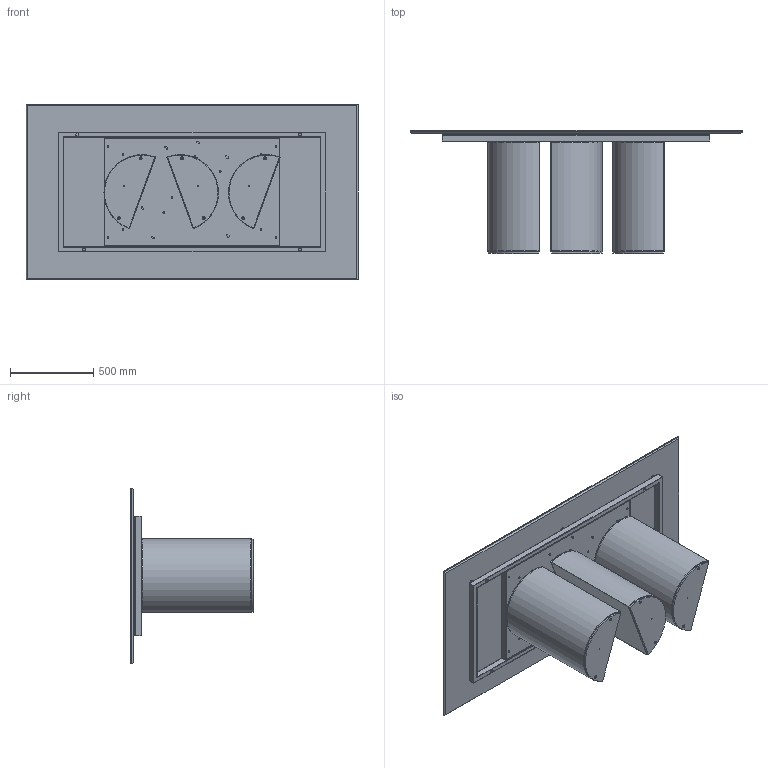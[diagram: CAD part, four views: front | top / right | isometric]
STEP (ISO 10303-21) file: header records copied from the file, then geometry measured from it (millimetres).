
FILE_DESCRIPTION (( 'STEP AP203' ), '1' );
FILE_NAME ('PL21C.STEP', '2024-08-07T13:50:34', ( '' ), ( '' ), 'SwSTEP 2.0', 'SolidWorks 2022', '' );
FILE_SCHEMA (( 'CONFIG_CONTROL_DESIGN' ));
Length unit declared in the file: millimetre
Products named in the file (14): rondella M8_8X24; M8xXXmm_M8x20mm; TTAV0601_01-00-STRUTTURA X TAVOLI PLAI ONDA NOA 240; K2XCMXX-00-Piani Rettangolari in ceramica_2000 x 1060; M8xXXmm_hex_M8X60mm; PLA000000BAS-00-PLAI BASE GREZZA; PLA000000ZOC-01-PLAI ZOCCOLO DELLA BASE; TTAV0601_02-00-VASSOIO TAVOLI PLAI ONDA NOA 240; COLLO TELAIO UNIVERSALE TTAV0601 CON FERRAMENTA_FERRAMENTA MTG TOP CRISTALLO VERNICIATO-CERAMICA; M8xXXmm_hex_M8X20mm; 434070-00-PIEDINO TPV GOMMA NERO D. 30x8max18_filo estetico; Assieme Basamento PLAI_Basamento per tavoli; PL21C; TTAV0601-00-TELAIO X TAVOLI PLAI ONDA NOA 240cm_TTAV06
Assembly tree (30 placements, depth 4):
  PL21C
    COLLO TELAIO UNIVERSALE TTAV0601 CON FERRAMENTA_FERRAMENTA MTG TOP CRISTALLO VERNICIATO-CERAMICA
      TTAV0601-00-TELAIO X TAVOLI PLAI ONDA NOA 240cm_TTAV06
        TTAV0601_02-00-VASSOIO TAVOLI PLAI ONDA NOA 240
        TTAV0601_01-00-STRUTTURA X TAVOLI PLAI ONDA NOA 240
      434070-00-PIEDINO TPV GOMMA NERO D. 30x8max18_filo estetico  x6
    Assieme Basamento PLAI_Basamento per tavoli  x3
      PLA000000BAS-00-PLAI BASE GREZZA
      PLA000000ZOC-01-PLAI ZOCCOLO DELLA BASE
      M8xXXmm_hex_M8X60mm
      M8xXXmm_hex_M8X20mm
    rondella M8_8X24  x6
    M8xXXmm_M8x20mm  x6
    K2XCMXX-00-Piani Rettangolari in ceramica_2000 x 1060
Bounding box: 2000 x 740 x 1060 mm (x, y, z)
Volume: 46498522.4 mm3; surface area: 17196516.3 mm2
Topology: 49 solids, 49 shells, 1130 faces, 2534 edges, 1484 vertices
Faces by surface type: plane 481, cylinder 333, cone 200, torus 108, sphere 8
Entity records: 19107 total; most frequent: DIRECTION 3153, CARTESIAN_POINT 2978, ORIENTED_EDGE 2792, EDGE_CURVE 1396, AXIS2_PLACEMENT_3D 1165, VERTEX_POINT 840, VECTOR 823, LINE 823
